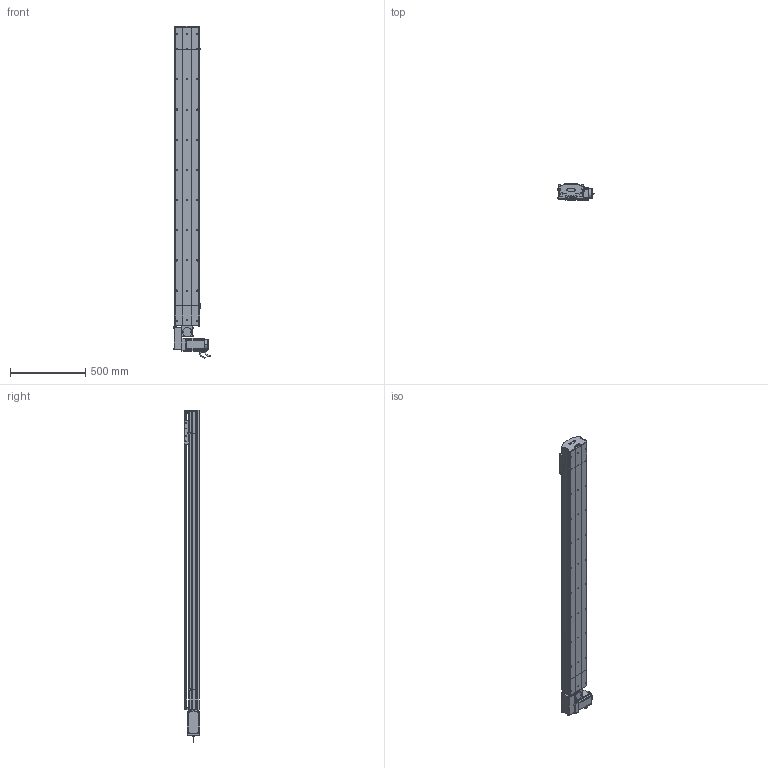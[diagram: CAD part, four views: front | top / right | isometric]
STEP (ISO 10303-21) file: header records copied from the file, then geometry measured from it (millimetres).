
FILE_DESCRIPTION (( 'STEP AP214' ), '1' );
FILE_NAME ('D17 TBH RH S1700.STEP', '2010-06-30T08:15:05', ( 'Christophe Gaillard' ), ( 'SGA' ), 'SwSTEP 2.0', 'SolidWorks 2010', '' );
FILE_SCHEMA (( 'AUTOMOTIVE_DESIGN' ));
Length unit declared in the file: millimetre
Products named in the file (40): D17 TBH RH S1700; corpl head D17 _Default; Head RH D17B_Default; couvercle D17B course L1700_Default; Couroie+ rail D17 Course 1700 ; corp D17B 1700_Default; course 1700 D17B_Default; vis M5 L12_Default; vis M5 L25_Default; vis M5 L8 90°_Default; couvercle D17B_Default; guide D17; Chariot D17; chariot D17S_Default; poulie tail_Default; plaque de  bout tail D17B_Default; Rail D17B; Couroie tail D17B_Default; Arbre+rail head D17B; plaque de  bout head D17B RH_Default; couvercle D17B head_Default; poulie head_Default; vis M5 L5_Default; cache D17_Default; avant 90BLDC125A-640; Moteur motionking 90BLDC125A-640; couroie head D17_Default; Conecteur_Default; Conecteur2_Default; codeur 90BLDC125-640; corps 90BLDC125A-640; vis M5 L16_Default; Plaque racord D17_Default; vis M5 L70_Default; Renvoi RH_Default; cache arbre D17_Default; Vis M5 L16-2_Default; tete d''axe poulie D17B; corp tail D17B+100_Default; Tail D17B+100_Default
Assembly tree (70 placements, depth 4):
  D17 TBH RH S1700
    chariot D17S_Default
      Chariot D17
      vis M5 L12_Default  x4
      guide D17  x2
    Tail D17B+100_Default
      vis M5 L8 90°_Default  x2
      vis M5 L12_Default  x4
      vis M5 L25_Default  x2
      couvercle D17B_Default
      corp tail D17B+100_Default
      Couroie tail D17B_Default
      tete d''axe poulie D17B
      Rail D17B
      poulie tail_Default
      plaque de  bout tail D17B_Default
    course 1700 D17B_Default
      couvercle D17B course L1700_Default
      corp D17B 1700_Default
      Couroie+ rail D17 Course 1700 
    Head RH D17B_Default
      vis M5 L12_Default  x8
      vis M5 L5_Default  x4
      vis M5 L70_Default  x4
      Vis M5 L16-2_Default  x4
      poulie head_Default
      cache arbre D17_Default
      plaque de  bout head D17B RH_Default
      couroie head D17_Default
      Moteur motionking 90BLDC125A-640
        avant 90BLDC125A-640
        codeur 90BLDC125-640
        corps 90BLDC125A-640
        Conecteur2_Default
        Conecteur_Default
      couvercle D17B head_Default
      Renvoi RH_Default
      vis M5 L16_Default  x2
      vis M5 L25_Default  x2
      Arbre+rail head D17B
      Plaque racord D17_Default
      cache D17_Default  x2
      corpl head D17 _Default
Bounding box: 245.2 x 105.65 x 2200.95 mm (x, y, z)
Volume: 12735397 mm3; surface area: 3632239.7 mm2
Topology: 94 solids, 94 shells, 2705 faces, 6839 edges, 4402 vertices
Faces by surface type: plane 1611, cylinder 781, bspline 136, cone 88, torus 85, sphere 4
Entity records: 84970 total; most frequent: CARTESIAN_POINT 25067, ORIENTED_EDGE 10450, DIRECTION 9910, EDGE_CURVE 5225, LINE 3472, VECTOR 3472, VERTEX_POINT 3426, AXIS2_PLACEMENT_3D 3219
